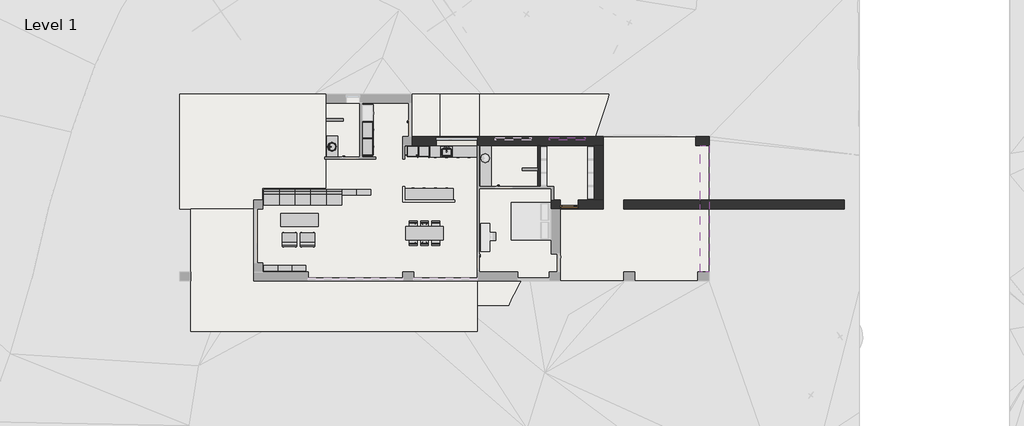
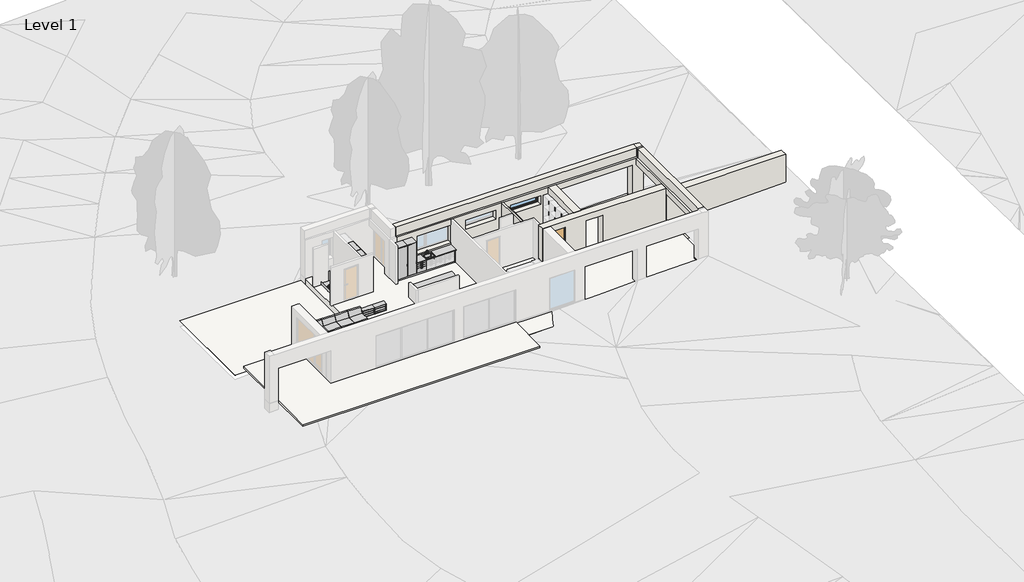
# One storey, part 2 of 3: 39 furniture elements, 12 walls, 4 slabs, 2 flow terminals, 1 door, 1 window.
"""IFC4 building model written with IfcOpenShell, lengths in millimetres."""

from ifc_helpers import new_model, si_unit, frame, origin, origin_with_axes, place, context, project, spatial, polyline, outline, extrude, faceted_brep, transform, mapped, element, save
from components import ext_single_flush1_960x2200_mm_7c25dc53, sink_kitchen_single_600_x_535mm_f0c6929d, sink_vanity_round_482_x_482mm_621b7b9b, furniture_c7f23c1d, furniture_56f83323, furniture_641ccf10, furniture_2000_x_700mm_040c55c5, furniture_2000_x_700mm_sofa_1e09125b, furniture_750_x_300_x_450mm_957a72fb, base_cabinet_4_drawers_600_mm_7743cde6, couch_straight_module_couch_straight_module_fcc397ea, counter_top_counter_top_fbe04672, counter_top_w_sink_counter_top_w_sink_1a22a961, front_plain_front_plain_37046411, front_plain_front_plain_e6c80844, front_plain_front_plain_2_fe2e9d0c, plinth_164mm_a440ec44, plinth_164mm_10810e33, tall_cabinet_double_door_900_mm_12ca9f50, tall_cabinet_single_door_600_mm_6a825e10, vanity_counter_top_w_round_sink_hole_600mm_depth_ba51d22c, vanity_counter_top_w_round_sink_hole_600mm_depth_d806985c, single_light_top_hinged_1920x600_dd11e4f9

model = new_model("IFC4")

# Units and contexts
model_context = context("Model", 3, world=origin())
ifc_project = project(units=[si_unit("LENGTHUNIT", "METRE", prefix="MILLI")], contexts=[model_context])

# Site, building, storey
site = spatial("IfcSite", under=ifc_project)
building = spatial("IfcBuilding", under=site)
storey = spatial("IfcBuildingStorey", under=building, Name="Level 1", Elevation=0.0)

# Door
placement = place(None, origin())
ext_single_flush1_960x2200_mm_shape = ext_single_flush1_960x2200_mm_7c25dc53(model_context)
element("IfcDoor", 1, ObjectType="Ext. Single-Flush1 : 960x2200 mm", at=placement, inside=storey, context=model_context, shape_type="MappedRepresentation", body=[
    mapped(ext_single_flush1_960x2200_mm_shape, transform((20760.0, 4080.0, 0.0), x_axis=(-1.0, 0.0, 0.0), y_axis=(0.0, -1.0, 0.0), z_axis=(0.0, 0.0, 1.0))),
])

# Flow terminals
sink_kitchen_single_600_x_535mm_shape = sink_kitchen_single_600_x_535mm_f0c6929d(model_context)
element("IfcFlowTerminal", 2, ObjectType="Sink Kitchen-Single : 600 x 535mm", at=placement, inside=storey, context=model_context, shape_type="MappedRepresentation", body=[
    mapped(sink_kitchen_single_600_x_535mm_shape, transform((14204.3107594, 6884.4545989, 0.0), x_axis=(1.0, 0.0, 0.0), y_axis=(0.0, 1.0, 0.0), z_axis=(0.0, 0.0, 1.0))),
])
sink_vanity_round_482_x_482mm_shape = sink_vanity_round_482_x_482mm_621b7b9b(model_context)
element("IfcFlowTerminal", 3, ObjectType="Sink Vanity - Round : 482 x 482mm", at=placement, inside=storey, context=model_context, shape_type="MappedRepresentation", body=[
    mapped(sink_vanity_round_482_x_482mm_shape, transform((8199.0351087, 7049.1198202, 0.0), x_axis=(0.0, 1.0000000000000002, 0.0), y_axis=(-1.0000000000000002, 0.0, 0.0), z_axis=(0.0, 0.0, 1.0))),
])

# Furniture
furniture_shape = furniture_c7f23c1d(model_context)
element("IfcFurniture", 4, ObjectType="Armchair - Barcelona : Armchair - Barcelona", at=placement, inside=storey, context=model_context, shape_type="MappedRepresentation", body=[
    mapped(furniture_shape, transform((5860.0, 1780.0, 0.0), x_axis=(-1.0000000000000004, 0.0, 0.0), y_axis=(0.0, -1.0000000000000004, 0.0), z_axis=(0.0, 0.0, 1.0))),
])
element("IfcFurniture", 5, ObjectType="Armchair - Barcelona : Armchair - Barcelona", at=placement, inside=storey, context=model_context, shape_type="MappedRepresentation", body=[
    mapped(furniture_shape, transform((6820.0, 1780.0, 0.0), x_axis=(-1.0, 0.0, 0.0), y_axis=(0.0, -1.0, 0.0), z_axis=(0.0, 0.0, 1.0))),
])
furniture_2_shape = furniture_56f83323(model_context)
element("IfcFurniture", 6, ObjectType="Chair - Allround : Chair - allround", at=placement, inside=storey, context=model_context, shape_type="MappedRepresentation", body=[
    mapped(furniture_2_shape, transform((13040.0, 2890.0, 0.0), x_axis=(1.0, 0.0, 0.0), y_axis=(0.0, 1.0, 0.0), z_axis=(0.0, 0.0, 1.0))),
])
element("IfcFurniture", 7, ObjectType="Chair - Allround : Chair - allround", at=placement, inside=storey, context=model_context, shape_type="MappedRepresentation", body=[
    mapped(furniture_2_shape, transform((12440.0, 2890.0, 0.0), x_axis=(1.0, 0.0, 0.0), y_axis=(0.0, 1.0, 0.0), z_axis=(0.0, 0.0, 1.0))),
])
element("IfcFurniture", 8, ObjectType="Chair - Allround : Chair - allround", at=placement, inside=storey, context=model_context, shape_type="MappedRepresentation", body=[
    mapped(furniture_2_shape, transform((13640.0, 2190.0, 0.0), x_axis=(-1.0, 0.0, 0.0), y_axis=(0.0, -1.0, 0.0), z_axis=(0.0, 0.0, 1.0))),
])
furniture_3_shape = furniture_641ccf10(model_context)
element("IfcFurniture", 9, ObjectType="Chair - Allround : Chair - allround", at=placement, inside=storey, context=model_context, shape_type="MappedRepresentation", body=[
    mapped(furniture_3_shape, transform((13640.0, 2890.0, 0.0), x_axis=(-1.0, 0.0, 0.0), y_axis=(0.0, -1.0, 0.0), z_axis=(0.0, 0.0, 1.0))),
])
element("IfcFurniture", 10, ObjectType="Chair - Allround : Chair - allround", at=placement, inside=storey, context=model_context, shape_type="MappedRepresentation", body=[
    mapped(furniture_3_shape, transform((13040.0, 2190.0, 0.0), x_axis=(1.0, 0.0, 0.0), y_axis=(0.0, 1.0, 0.0), z_axis=(0.0, 0.0, 1.0))),
])
element("IfcFurniture", 11, ObjectType="Chair - Allround : Chair - allround", at=placement, inside=storey, context=model_context, shape_type="MappedRepresentation", body=[
    mapped(furniture_3_shape, transform((12440.0, 2190.0, 0.0), x_axis=(1.0, 0.0, 0.0), y_axis=(0.0, 1.0, 0.0), z_axis=(0.0, 0.0, 1.0))),
])
furniture_2000_x_700mm_shape = furniture_2000_x_700mm_040c55c5(model_context)
element("IfcFurniture", 12, ObjectType="Table - Allround : 2000 x 700mm", at=placement, inside=storey, context=model_context, shape_type="MappedRepresentation", body=[
    mapped(furniture_2000_x_700mm_shape, transform((13040.0, 2540.0, 0.0), x_axis=(1.0, 0.0, 0.0), y_axis=(0.0, 1.0, 0.0), z_axis=(0.0, 0.0, 1.0))),
])
furniture_2000_x_700mm_sofa_shape = furniture_2000_x_700mm_sofa_1e09125b(model_context)
element("IfcFurniture", 13, ObjectType="Table - Allround : 2000 x 700mm Sofa", at=placement, inside=storey, context=model_context, shape_type="MappedRepresentation", body=[
    mapped(furniture_2000_x_700mm_sofa_shape, transform((6380.0, 3240.0, 0.0), x_axis=(1.0, 0.0, 0.0), y_axis=(0.0, 1.0, 0.0), z_axis=(0.0, 0.0, 1.0))),
])
furniture_750_x_300_x_450mm_shape = furniture_750_x_300_x_450mm_957a72fb(model_context)
element("IfcFurniture", 14, ObjectType="Shelving (Floor) - Allround : 750 x 300 x 450mm", at=placement, inside=storey, context=model_context, shape_type="MappedRepresentation", body=[
    mapped(furniture_750_x_300_x_450mm_shape, transform((9045.0, 5034.8, 0.0), x_axis=(1.0, 0.0, 0.0), y_axis=(0.0, 1.0, 0.0), z_axis=(0.0, 0.0, 1.0))),
])
element("IfcFurniture", 15, ObjectType="Shelving (Floor) - Allround : 750 x 300 x 450mm", at=placement, inside=storey, context=model_context, shape_type="MappedRepresentation", body=[
    mapped(furniture_750_x_300_x_450mm_shape, transform((9795.0, 5034.8, 0.0), x_axis=(1.0, 0.0, 0.0), y_axis=(0.0, 1.0, 0.0), z_axis=(0.0, 0.0, 1.0))),
])
element("IfcFurniture", 16, ObjectType="Shelving (Floor) - Allround : 750 x 300 x 450mm", at=placement, inside=storey, context=model_context, shape_type="MappedRepresentation", body=[
    mapped(furniture_750_x_300_x_450mm_shape, transform((4855.0, 974.8, 0.0), x_axis=(1.0, 0.0, 0.0), y_axis=(0.0, 1.0, 0.0), z_axis=(0.0, 0.0, 1.0))),
])
element("IfcFurniture", 17, ObjectType="Shelving (Floor) - Allround : 750 x 300 x 450mm", at=placement, inside=storey, context=model_context, shape_type="MappedRepresentation", body=[
    mapped(furniture_750_x_300_x_450mm_shape, transform((5605.0, 974.8, 0.0), x_axis=(1.0, 0.0, 0.0), y_axis=(0.0, 1.0, 0.0), z_axis=(0.0, 0.0, 1.0))),
])
element("IfcFurniture", 18, ObjectType="Shelving (Floor) - Allround : 750 x 300 x 450mm", at=placement, inside=storey, context=model_context, shape_type="MappedRepresentation", body=[
    mapped(furniture_750_x_300_x_450mm_shape, transform((6355.0, 974.8, 0.0), x_axis=(1.0, 0.0, 0.0), y_axis=(0.0, 1.0, 0.0), z_axis=(0.0, 0.0, 1.0))),
])
base_cabinet_4_drawers_600_mm_shape = base_cabinet_4_drawers_600_mm_7743cde6(model_context)
element("IfcFurniture", 19, ObjectType="Base Cabinet - 4 Drawers : 600 mm", at=placement, inside=storey, context=model_context, shape_type="MappedRepresentation", body=[
    mapped(base_cabinet_4_drawers_600_mm_shape, transform((13575.2996736, 7200.0, 0.0), x_axis=(1.0, 0.0, 0.0), y_axis=(0.0, 1.0, 0.0), z_axis=(0.0, 0.0, 1.0))),
])
element("IfcFurniture", 20, ObjectType="Base Cabinet - 4 Drawers : 600 mm", at=placement, inside=storey, context=model_context, shape_type="MappedRepresentation", body=[
    mapped(base_cabinet_4_drawers_600_mm_shape, transform((12464.7003264, 4320.0, 0.0), x_axis=(-1.0, 0.0, 0.0), y_axis=(0.0, -1.0, 0.0), z_axis=(0.0, 0.0, 1.0))),
])
element("IfcFurniture", 21, ObjectType="Base Cabinet - 4 Drawers : 600 mm", at=placement, inside=storey, context=model_context, shape_type="MappedRepresentation", body=[
    mapped(base_cabinet_4_drawers_600_mm_shape, transform((13064.7003264, 4320.0, 0.0), x_axis=(-1.0, 0.0, 0.0), y_axis=(0.0, -1.0, 0.0), z_axis=(0.0, 0.0, 1.0))),
])
element("IfcFurniture", 22, ObjectType="Base Cabinet - 4 Drawers : 600 mm", at=placement, inside=storey, context=model_context, shape_type="MappedRepresentation", body=[
    mapped(base_cabinet_4_drawers_600_mm_shape, transform((13664.7003264, 4320.0, 0.0), x_axis=(-1.0, 0.0, 0.0), y_axis=(0.0, -1.0, 0.0), z_axis=(0.0, 0.0, 1.0))),
])
element("IfcFurniture", 23, ObjectType="Base Cabinet - 4 Drawers : 600 mm", at=placement, inside=storey, context=model_context, shape_type="MappedRepresentation", body=[
    mapped(base_cabinet_4_drawers_600_mm_shape, transform((14264.7003264, 4320.0, 0.0), x_axis=(-1.0, 0.0, 0.0), y_axis=(0.0, -1.0, 0.0), z_axis=(0.0, 0.0, 1.0))),
])
couch_straight_module_couch_straight_module_shape = couch_straight_module_couch_straight_module_fcc397ea(model_context)
element("IfcFurniture", 24, ObjectType="Couch - Straight Module : Couch straight module", at=placement, inside=storey, context=model_context, shape_type="MappedRepresentation", body=[
    mapped(couch_straight_module_couch_straight_module_shape, transform((4480.0, 4050.0, 0.0), x_axis=(1.0, 0.0, 0.0), y_axis=(0.0, 1.0, 0.0), z_axis=(0.0, 0.0, 1.0))),
])
element("IfcFurniture", 25, ObjectType="Couch - Straight Module : Couch straight module", at=placement, inside=storey, context=model_context, shape_type="MappedRepresentation", body=[
    mapped(couch_straight_module_couch_straight_module_shape, transform((5310.0, 4050.0, 0.0), x_axis=(1.0, 0.0, 0.0), y_axis=(0.0, 1.0, 0.0), z_axis=(0.0, 0.0, 1.0))),
])
element("IfcFurniture", 26, ObjectType="Couch - Straight Module : Couch straight module", at=placement, inside=storey, context=model_context, shape_type="MappedRepresentation", body=[
    mapped(couch_straight_module_couch_straight_module_shape, transform((6140.0, 4050.0, 0.0), x_axis=(1.0, 0.0, 0.0), y_axis=(0.0, 1.0, 0.0), z_axis=(0.0, 0.0, 1.0))),
])
element("IfcFurniture", 27, ObjectType="Couch - Straight Module : Couch straight module", at=placement, inside=storey, context=model_context, shape_type="MappedRepresentation", body=[
    mapped(couch_straight_module_couch_straight_module_shape, transform((6970.0, 4050.0, 0.0), x_axis=(1.0, 0.0, 0.0), y_axis=(0.0, 1.0, 0.0), z_axis=(0.0, 0.0, 1.0))),
])
element("IfcFurniture", 28, ObjectType="Couch - Straight Module : Couch straight module", at=placement, inside=storey, context=model_context, shape_type="MappedRepresentation", body=[
    mapped(couch_straight_module_couch_straight_module_shape, transform((7800.0, 4050.0, 0.0), x_axis=(1.0, 0.0, 0.0), y_axis=(0.0, 1.0, 0.0), z_axis=(0.0, 0.0, 1.0))),
])
counter_top_counter_top_shape = counter_top_counter_top_fbe04672(model_context)
element("IfcFurniture", 29, ObjectType="Counter Top : Counter Top", at=placement, inside=storey, context=model_context, shape_type="MappedRepresentation", body=[
    mapped(counter_top_counter_top_shape, transform((12555.2996736, 4920.0, 0.0), x_axis=(1.0, 0.0, 0.0), y_axis=(0.0, 1.0, 0.0), z_axis=(0.0, 0.0, 1.0))),
])
counter_top_w_sink_counter_top_w_sink_shape = counter_top_w_sink_counter_top_w_sink_1a22a961(model_context)
element("IfcFurniture", 30, ObjectType="Counter Top w Sink : Counter Top w Sink", at=placement, inside=storey, context=model_context, shape_type="MappedRepresentation", body=[
    mapped(counter_top_w_sink_counter_top_w_sink_shape, transform((13875.2996736, 7200.0, 0.0), x_axis=(1.0, 0.0, 0.0), y_axis=(0.0, 1.0, 0.0), z_axis=(0.0, 0.0, 1.0))),
])
front_plain_front_plain_shape = front_plain_front_plain_37046411(model_context)
element("IfcFurniture", 31, ObjectType="Front - Plain : Front - Plain", at=placement, inside=storey, context=model_context, shape_type="MappedRepresentation", body=[
    mapped(front_plain_front_plain_shape, transform((15783.0, 6711.0, 161.0), x_axis=(1.0, 0.0, 0.0), y_axis=(0.0, 1.0, 0.0), z_axis=(0.0, 0.0, 1.0))),
])
element("IfcFurniture", 32, ObjectType="Front - Plain : Front - Plain", at=placement, inside=storey, context=model_context, shape_type="MappedRepresentation", body=[
    mapped(front_plain_front_plain_shape, transform((12057.0, 4809.0, 161.0), x_axis=(-1.0, 0.0, 0.0), y_axis=(0.0, -1.0, 0.0), z_axis=(0.0, 0.0, 1.0))),
])
front_plain_front_plain_2_shape = front_plain_front_plain_e6c80844(model_context)
element("IfcFurniture", 33, ObjectType="Front - Plain : Front - Plain", at=placement, inside=storey, context=model_context, shape_type="MappedRepresentation", body=[
    mapped(front_plain_front_plain_2_shape, transform((12657.0, 6711.0, 161.0), x_axis=(-1.0, 0.0, 0.0), y_axis=(0.0, -1.0, 0.0), z_axis=(0.0, 0.0, 1.0))),
])
front_plain_front_plain_2_2_shape = front_plain_front_plain_2_fe2e9d0c(model_context)
element("IfcFurniture", 34, ObjectType="Front - Plain : Front - Plain 2", at=placement, inside=storey, context=model_context, shape_type="MappedRepresentation", body=[
    mapped(front_plain_front_plain_2_2_shape, transform((12057.0, 6711.0, 161.0), x_axis=(-1.0, 0.0, 0.0), y_axis=(0.0, -1.0, 0.0), z_axis=(0.0, 0.0, 1.0))),
])
plinth_164mm_shape = plinth_164mm_a440ec44(model_context)
element("IfcFurniture", 35, ObjectType="Plinth : 164mm", at=placement, inside=storey, context=model_context, shape_type="MappedRepresentation", body=[
    mapped(plinth_164mm_shape, transform((13875.2996736, 7200.0, 0.0), x_axis=(1.0, 0.0, 0.0), y_axis=(0.0, 1.0, 0.0), z_axis=(0.0, 0.0, 1.0))),
])
plinth_164mm_2_shape = plinth_164mm_10810e33(model_context)
element("IfcFurniture", 36, ObjectType="Plinth : 164mm", at=placement, inside=storey, context=model_context, shape_type="MappedRepresentation", body=[
    mapped(plinth_164mm_2_shape, transform((13304.7003264, 4320.0, 0.0), x_axis=(-1.0000000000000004, 0.0, 0.0), y_axis=(0.0, -1.0000000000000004, 0.0), z_axis=(0.0, 0.0, 1.0))),
])
tall_cabinet_double_door_900_mm_shape = tall_cabinet_double_door_900_mm_12ca9f50(model_context)
element("IfcFurniture", 37, ObjectType="Tall Cabinet - Double door : 900 mm", at=placement, inside=storey, context=model_context, shape_type="MappedRepresentation", body=[
    mapped(tall_cabinet_double_door_900_mm_shape, transform((9720.0, 7995.2996736, 0.0), x_axis=(0.0, 1.0000000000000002, 0.0), y_axis=(-1.0000000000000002, 0.0, 0.0), z_axis=(0.0, 0.0, 1.0))),
])
element("IfcFurniture", 38, ObjectType="Tall Cabinet - Double door : 900 mm", at=placement, inside=storey, context=model_context, shape_type="MappedRepresentation", body=[
    mapped(tall_cabinet_double_door_900_mm_shape, transform((9720.0, 7095.2996736, 0.0), x_axis=(0.0, 1.0000000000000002, 0.0), y_axis=(-1.0000000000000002, 0.0, 0.0), z_axis=(0.0, 0.0, 1.0))),
])
tall_cabinet_single_door_600_mm_shape = tall_cabinet_single_door_600_mm_6a825e10(model_context)
element("IfcFurniture", 39, ObjectType="Tall Cabinet - Single door : 600 mm", at=placement, inside=storey, context=model_context, shape_type="MappedRepresentation", body=[
    mapped(tall_cabinet_single_door_600_mm_shape, transform((12375.2996736, 7200.0, 0.0), x_axis=(1.0, 0.0, 0.0), y_axis=(0.0, 1.0, 0.0), z_axis=(0.0, 0.0, 1.0))),
])
element("IfcFurniture", 40, ObjectType="Tall Cabinet - Single door : 600 mm", at=placement, inside=storey, context=model_context, shape_type="MappedRepresentation", body=[
    mapped(tall_cabinet_single_door_600_mm_shape, transform((12975.2996736, 7200.0, 0.0), x_axis=(1.0, 0.0, 0.0), y_axis=(0.0, 1.0, 0.0), z_axis=(0.0, 0.0, 1.0))),
])
vanity_counter_top_w_round_sink_hole_600mm_depth_shape = vanity_counter_top_w_round_sink_hole_600mm_depth_ba51d22c(model_context)
element("IfcFurniture", 41, ObjectType="Vanity Counter Top w. Round Sink Hole : 600mm Depth", at=placement, inside=storey, context=model_context, shape_type="MappedRepresentation", body=[
    mapped(vanity_counter_top_w_round_sink_hole_600mm_depth_shape, transform((15960.0, 6367.4622951, 0.0), x_axis=(0.0, 1.0000000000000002, 0.0), y_axis=(-1.0000000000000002, 0.0, 0.0), z_axis=(0.0, 0.0, 1.0))),
])
vanity_counter_top_w_round_sink_hole_600mm_depth_2_shape = vanity_counter_top_w_round_sink_hole_600mm_depth_d806985c(model_context)
element("IfcFurniture", 42, ObjectType="Vanity Counter Top w. Round Sink Hole : 600mm Depth", at=placement, inside=storey, context=model_context, shape_type="MappedRepresentation", body=[
    mapped(vanity_counter_top_w_round_sink_hole_600mm_depth_2_shape, transform((7800.0, 7927.4622951, 0.0), x_axis=(0.0, 1.0000000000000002, 0.0), y_axis=(-1.0000000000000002, 0.0, 0.0), z_axis=(0.0, 0.0, 1.0))),
])

# Slabs
element("IfcSlab", 43, ObjectType="Generic - 400mm (Ground)", at=placement, inside=storey, context=model_context, shape_type="Brep", body=[
    faceted_brep([(12195.0, 9480.0, -400.0), (12195.0, 7680.0, -400.0), (11880.0, 7680.0, -400.0), (11880.0, 7200.0, -400.0), (22080.0, 7200.0, -400.0), (22080.0, 4320.0, -400.0), (21240.0, 4320.0, -400.0), (21240.0, 4005.0, -400.0), (20280.0, 4005.0, -400.0), (20280.0, 4320.0, -400.0), (19800.0, 4320.0, -400.0), (19800.0, 1440.0, -400.0), (20115.0, 1440.0, -400.0), (20115.0, 480.0, -400.0), (19800.0, 480.0, -400.0), (19680.0, 480.0, -400.0), (19680.0, 165.0, -400.0), (18000.0, 165.0, -400.0), (18000.0, 480.0, -400.0), (15840.0, 480.0, -400.0), (15840.0, 165.0, -400.0), (12480.0, 165.0, -400.0), (12480.0, 480.0, -400.0), (11880.0, 480.0, -400.0), (11880.0, 165.0, -400.0), (6840.0, 165.0, -400.0), (6840.0, 480.0, -400.0), (4440.0, 480.0, -400.0), (4440.0, 960.0, -400.0), (4125.0, 960.0, -400.0), (4125.0, 3840.0, -400.0), (4440.0, 3840.0, -400.0), (4440.0, 4920.0, -400.0), (7800.0, 4920.0, -400.0), (7800.0, 9480.0, -400.0), (11880.0, 9480.0, -400.0), (12195.0, 9480.0, 0.0), (7800.0, 9480.0, 0.0), (7800.0, 4920.0, 0.0), (4440.0, 4920.0, 0.0), (4440.0, 3840.0, 0.0), (4125.0, 3840.0, 0.0), (4125.0, 960.0, 0.0), (4440.0, 960.0, 0.0), (4440.0, 480.0, 0.0), (6840.0, 480.0, 0.0), (6840.0, 165.0, 0.0), (11880.0, 165.0, 0.0), (11880.0, 480.0, 0.0), (12480.0, 480.0, 0.0), (12480.0, 165.0, 0.0), (15840.0, 165.0, 0.0), (15840.0, 480.0, 0.0), (18000.0, 480.0, 0.0), (18000.0, 165.0, 0.0), (19680.0, 165.0, 0.0), (19680.0, 480.0, 0.0), (19800.0, 480.0, 0.0), (20115.0, 480.0, 0.0), (20115.0, 1440.0, 0.0), (19800.0, 1440.0, 0.0), (19800.0, 3840.0, 0.0), (19800.0, 4320.0, 0.0), (20280.0, 4320.0, 0.0), (20280.0, 4005.0, 0.0), (21240.0, 4005.0, 0.0), (21240.0, 4320.0, 0.0), (22080.0, 4320.0, 0.0), (22080.0, 7200.0, 0.0), (12360.0, 7200.0, 0.0), (11880.0, 7200.0, 0.0), (11880.0, 7680.0, 0.0), (12195.0, 7680.0, 0.0)], [[[0, 1, 2, 3, 4, 5, 6, 7, 8, 9, 10, 11, 12, 13, 14, 15, 16, 17, 18, 19, 20, 21, 22, 23, 24, 25, 26, 27, 28, 29, 30, 31, 32, 33, 34, 35]], [[36, 37, 38, 39, 40, 41, 42, 43, 44, 45, 46, 47, 48, 49, 50, 51, 52, 53, 54, 55, 56, 57, 58, 59, 60, 61, 62, 63, 64, 65, 66, 67, 68, 69, 70, 71, 72]], [[1, 0, 36, 72]], [[2, 1, 72, 71]], [[3, 2, 71, 70]], [[4, 3, 70, 69, 68]], [[5, 4, 68, 67]], [[6, 5, 67, 66]], [[7, 6, 66, 65]], [[8, 7, 65, 64]], [[9, 8, 64, 63]], [[10, 9, 63, 62]], [[11, 10, 62, 61, 60]], [[12, 11, 60, 59]], [[13, 12, 59, 58]], [[15, 14, 13, 58, 57, 56]], [[16, 15, 56, 55]], [[17, 16, 55, 54]], [[18, 17, 54, 53]], [[19, 18, 53, 52]], [[20, 19, 52, 51]], [[21, 20, 51, 50]], [[22, 21, 50, 49]], [[23, 22, 49, 48]], [[24, 23, 48, 47]], [[25, 24, 47, 46]], [[26, 25, 46, 45]], [[27, 26, 45, 44]], [[28, 27, 44, 43]], [[29, 28, 43, 42]], [[30, 29, 42, 41]], [[31, 30, 41, 40]], [[32, 31, 40, 39]], [[33, 32, 39, 38]], [[34, 33, 38, 37]], [[0, 35, 34, 37, 36]]]),
])
element("IfcSlab", 44, ObjectType="Generic - Concrete 100mm (Exterior)", at=placement, inside=storey, context=model_context, shape_type="Brep", body=[
    faceted_brep([(28200.0, 9960.0, -200.0), (28200.0, 7680.0, -200.0), (28200.0, 7200.0, -200.0), (28200.0, 4320.0, -200.0), (23640.0, 4320.0, -200.0), (23640.0, 3840.0, -200.0), (28200.0, 3840.0, -200.0), (28200.0, 480.0, -200.0), (28200.0, 0.0, -200.0), (28200.0, -1300.0, -200.0), (15840.0, -1300.0, -200.0), (15840.0, 0.0, -200.0), (20280.0, 0.0, -200.0), (20280.0, 3840.0, -200.0), (22560.0, 3840.0, -200.0), (22560.0, 7680.0, -200.0), (12360.0, 7680.0, -200.0), (12360.0, 9960.0, -200.0), (28200.0, 9960.0, -100.0), (28200.0, 7680.0, -100.0), (28200.0, 7200.0, -100.0), (28200.0, 4320.0, -100.0), (23640.0, 4320.0, -100.0), (23640.0, 3840.0, -100.0), (28200.0, 3840.0, -100.0), (28200.0, 480.0, -100.0), (28200.0, 0.0, -100.0), (28200.0, -1300.0, -100.0), (15840.0, -1300.0, -100.0), (15840.0, 0.0, -100.0), (20280.0, 0.0, -100.0), (20280.0, 3840.0, -100.0), (22560.0, 3840.0, -100.0), (22560.0, 7680.0, -100.0), (15960.0, 7680.0, -100.0), (13860.0, 7680.0, 0.0), (12360.0, 7680.0, 0.0), (12360.0, 9960.0, 0.0), (13860.0, 9960.0, 0.0), (15960.0, 9960.0, -100.0)], [[[0, 1, 2, 3, 4, 5, 6, 7, 8, 9, 10, 11, 12, 13, 14, 15, 16, 17]], [[3, 2, 1, 0, 18, 19, 20, 21]], [[4, 3, 21, 22]], [[5, 4, 22, 23]], [[6, 5, 23, 24]], [[8, 7, 6, 24, 25, 26]], [[9, 8, 26, 27]], [[10, 9, 27, 28]], [[11, 10, 28, 29]], [[12, 11, 29, 30]], [[13, 12, 30, 31]], [[14, 13, 31, 32]], [[15, 14, 32, 33]], [[16, 15, 33, 34, 35, 36]], [[17, 16, 36, 37]], [[0, 17, 37, 38, 39, 18]], [[37, 36, 35, 38]], [[38, 35, 34, 39]], [[33, 32, 31, 30, 29, 28, 27, 26, 25, 24, 23, 22, 21, 20, 19, 18, 39, 34]]]),
])
element("IfcSlab", 45, ObjectType="Generic - Wood 120mm (Exterior)", at=placement, inside=storey, context=model_context, shape_type="SweptSolid", body=[
    extrude(outline(polyline([(3960.0, 3840.0), (3960.0, 0.0), (15840.0, 0.0), (15840.0, -2700.0), (600.0, -2700.0), (600.0, 3840.0), (3960.0, 3840.0)])), frame((0.0, 0.0, -120.0), z_axis=(0.0, 0.0, 1.0), x_axis=(1.0, 0.0, 0.0)), (0.0, 0.0, 1.0), 120.0),
])
element("IfcSlab", 46, ObjectType="Generic Pad - 2mm", at=placement, inside=storey, context=model_context, shape_type="SweptSolid", body=[
    extrude(outline(polyline([(12360.0, 9960.0), (12360.0, 7680.0), (28200.0, 7680.0), (28200.0, 4320.0), (35400.0, 4320.0), (35400.0, 3840.0), (28200.0, 3840.0), (28200.0, 0.0), (3960.0, 0.0), (3960.0, 3840.0), (0.0, 3840.0), (0.0, 9960.0), (12360.0, 9960.0)])), frame((0.0, 0.0, -400.0), z_axis=(0.0, 0.0, 1.0), x_axis=(1.0, 0.0, 0.0)), (0.0, 0.0, 1.0), 2.0),
])

# Walls
element("IfcWall", 47, ObjectType="Generic - 120mm (Interior)", at=placement, inside=storey, context=model_context, shape_type="Brep", body=[
    faceted_brep([(19200.0, 5040.0, 0.0), (19200.0, 7200.0, 0.0), (19200.0, 7200.0, 2600.0), (19200.0, 5040.0, 2600.0), (19080.0, 5040.0, 0.0), (19080.0, 5040.0, 2600.0), (19080.0, 5880.0, 2600.0), (19080.0, 6000.0, 2600.0), (19080.0, 7200.0, 2600.0), (19080.0, 7200.0, 0.0), (19080.0, 6000.0, 0.0), (19080.0, 5880.0, 0.0)], [[[0, 1, 2, 3]], [[4, 5, 6, 7, 8, 9, 10, 11]], [[1, 0, 4, 11, 10, 9]], [[0, 3, 5, 4]], [[2, 1, 9, 8]], [[3, 2, 8, 7, 6, 5]]]),
])
element("IfcWall", 48, ObjectType="Generic - 480mm (Exterior)", at=placement, inside=storey, context=model_context, shape_type="Brep", body=[
    faceted_brep([(12360.0, 7200.0, 0.0), (15840.0, 7200.0, 0.0), (15960.0, 7200.0, 0.0), (19080.0, 7200.0, 0.0), (19200.0, 7200.0, 0.0), (22080.0, 7200.0, 0.0), (22560.0, 7200.0, 0.0), (22560.0, 7200.0, 2200.0), (27480.0, 7200.0, 2200.0), (27480.0, 7200.0, 0.0), (28200.0, 7200.0, 0.0), (28200.0, 7200.0, 2200.0), (28200.0, 7200.0, 3200.0), (27840.0, 7200.0, 3200.0), (27840.0, 7200.0, 2600.0), (27720.0, 7200.0, 2600.0), (22560.0, 7200.0, 2600.0), (22080.0, 7200.0, 2600.0), (19200.0, 7200.0, 2600.0), (19080.0, 7200.0, 2600.0), (15960.0, 7200.0, 2600.0), (15840.0, 7200.0, 2600.0), (12360.0, 7200.0, 2600.0), (19680.0, 7200.0, 1600.0), (19680.0, 7200.0, 2200.0), (21600.0, 7200.0, 2200.0), (21600.0, 7200.0, 1600.0), (16800.0, 7200.0, 1600.0), (16800.0, 7200.0, 2200.0), (18720.0, 7200.0, 2200.0), (18720.0, 7200.0, 1600.0), (15840.0, 7200.0, 1000.0), (13680.0, 7200.0, 1000.0), (13680.0, 7200.0, 2200.0), (15840.0, 7200.0, 2200.0), (12360.0, 7680.0, 0.0), (12360.0, 7680.0, 2200.0), (12360.0, 7680.0, 3200.0), (27840.0, 7680.0, 3200.0), (28200.0, 7680.0, 3200.0), (28200.0, 7680.0, 0.0), (27480.0, 7680.0, 0.0), (27480.0, 7680.0, 2200.0), (22560.0, 7680.0, 2200.0), (22560.0, 7680.0, 0.0), (19680.0, 7680.0, 1600.0), (21600.0, 7680.0, 1600.0), (21600.0, 7680.0, 2200.0), (19680.0, 7680.0, 2200.0), (16800.0, 7680.0, 1600.0), (18720.0, 7680.0, 1600.0), (18720.0, 7680.0, 2200.0), (16800.0, 7680.0, 2200.0), (15840.0, 7680.0, 1000.0), (15840.0, 7680.0, 2200.0), (13680.0, 7680.0, 2200.0), (13680.0, 7680.0, 1000.0), (28200.0, 7320.0, 3200.0), (12360.0, 7320.0, 2600.0), (12360.0, 7320.0, 3200.0), (27840.0, 7320.0, 3200.0), (27840.0, 7320.0, 2600.0)], [[[0, 1, 2, 3, 4, 5, 6, 7, 8, 9, 10, 11, 12, 13, 14, 15, 16, 17, 18, 19, 20, 21, 22], [23, 24, 25, 26], [27, 28, 29, 30], [31, 32, 33, 34]], [[35, 36, 37, 38, 39, 40, 41, 42, 43, 44], [45, 46, 47, 48], [49, 50, 51, 52], [53, 54, 55, 56]], [[12, 11, 10, 40, 39, 57]], [[24, 23, 45, 48]], [[25, 24, 48, 47]], [[26, 25, 47, 46]], [[23, 26, 46, 45]], [[28, 27, 49, 52]], [[29, 28, 52, 51]], [[30, 29, 51, 50]], [[27, 30, 50, 49]], [[54, 53, 31, 34]], [[55, 54, 34, 33]], [[56, 55, 33, 32]], [[53, 56, 32, 31]], [[6, 5, 4, 3, 2, 1, 0, 35, 44]], [[8, 7, 43, 42]], [[9, 8, 42, 41]], [[10, 9, 41, 40]], [[7, 6, 44, 43]], [[0, 22, 58, 59, 37, 36, 35]], [[60, 59, 58, 61]], [[13, 12, 57, 60]], [[13, 60, 61, 14]], [[38, 37, 59, 60]], [[57, 39, 38, 60]], [[22, 21, 20, 19, 18, 17, 16, 15, 14, 61, 58]]]),
])
element("IfcWall", 49, ObjectType="Generic - 480mm (Exterior)", at=placement, inside=storey, context=model_context, shape_type="Brep", body=[
    faceted_brep([(27720.0, 7200.0, 2200.0), (27720.0, 480.0, 2200.0), (27720.0, 480.0, 2600.0), (27720.0, 3840.0, 2600.0), (27720.0, 4320.0, 2600.0), (27720.0, 7200.0, 2600.0), (28200.0, 7200.0, 2200.0), (28200.0, 7200.0, 3200.0), (28200.0, 480.0, 3200.0), (28200.0, 480.0, 2200.0), (27840.0, 7200.0, 2600.0), (27840.0, 7200.0, 3200.0), (27840.0, 480.0, 3200.0), (27840.0, 480.0, 2600.0)], [[[0, 1, 2, 3, 4, 5]], [[6, 7, 8, 9]], [[1, 0, 6, 9]], [[0, 5, 10, 11, 7, 6]], [[2, 1, 9, 8, 12, 13]], [[12, 8, 7, 11]], [[12, 11, 10, 13]], [[5, 4, 3, 2, 13, 10]]]),
])
element("IfcWall", 50, ObjectType="Generic - 480mm (Exterior)", at=placement, inside=storey, context=model_context, shape_type="Brep", body=[
    faceted_brep([(22080.0, 7200.0, 2600.0), (22080.0, 7200.0, 0.0), (22080.0, 4320.0, 0.0), (22080.0, 4320.0, 2600.0), (22560.0, 7200.0, 0.0), (22560.0, 7200.0, 2200.0), (22560.0, 7200.0, 2600.0), (22560.0, 4320.0, 2600.0), (22560.0, 4320.0, 2200.0), (22560.0, 4320.0, 0.0)], [[[0, 1, 2, 3]], [[4, 5, 6, 7, 8, 9]], [[2, 1, 4, 9]], [[0, 6, 5, 4, 1]], [[0, 3, 7, 6]], [[3, 2, 9, 8, 7]]]),
])
element("IfcWall", 51, ObjectType="Generic - 480mm (Exterior)", at=placement, inside=storey, context=model_context, shape_type="SweptSolid", body=[
    extrude(outline(polyline([(27720.0, 4320.0), (35400.0, 4320.0), (35400.0, 3840.0), (27720.0, 3840.0), (27720.0, 4320.0)])), origin_with_axes(), (0.0, 0.0, 1.0), 2200.0),
])
element("IfcWall", 52, ObjectType="Generic - 480mm (Exterior)", at=placement, inside=storey, context=model_context, shape_type="Brep", body=[
    faceted_brep([(19800.0, 4320.0, 0.0), (19800.0, 4320.0, 2600.0), (19920.0, 4320.0, 2600.0), (22080.0, 4320.0, 2600.0), (22560.0, 4320.0, 2600.0), (27720.0, 4320.0, 2600.0), (27720.0, 4320.0, 2200.0), (27720.0, 4320.0, 0.0), (23640.0, 4320.0, 0.0), (23640.0, 4320.0, 2200.0), (22560.0, 4320.0, 2200.0), (22560.0, 4320.0, 0.0), (22080.0, 4320.0, 0.0), (21240.0, 4320.0, 0.0), (21240.0, 4320.0, 2200.0), (20280.0, 4320.0, 2200.0), (20280.0, 4320.0, 0.0), (19920.0, 4320.0, 0.0), (19800.0, 3840.0, 2600.0), (19800.0, 3840.0, 0.0), (20280.0, 3840.0, 0.0), (20280.0, 3840.0, 2200.0), (21240.0, 3840.0, 2200.0), (21240.0, 3840.0, 0.0), (22560.0, 3840.0, 0.0), (22560.0, 3840.0, 2200.0), (23640.0, 3840.0, 2200.0), (23640.0, 3840.0, 0.0), (27720.0, 3840.0, 0.0), (27720.0, 3840.0, 2200.0), (27720.0, 3840.0, 2600.0), (20280.0, 3840.0, 2600.0)], [[[0, 1, 2, 3, 4, 5, 6, 7, 8, 9, 10, 11, 12, 13, 14, 15, 16, 17]], [[18, 19, 20, 21, 22, 23, 24, 25, 26, 27, 28, 29, 30, 31]], [[19, 0, 17, 16, 20]], [[7, 28, 27, 8]], [[11, 24, 23, 13, 12]], [[1, 0, 19, 18]], [[15, 21, 20, 16]], [[21, 15, 14, 22]], [[22, 14, 13, 23]], [[28, 7, 6, 5, 30, 29]], [[9, 26, 25, 10]], [[26, 9, 8, 27]], [[5, 4, 3, 2, 1, 18, 31, 30]], [[10, 25, 24, 11]]]),
])
element("IfcWall", 53, ObjectType="Generic - 480mm (Foundation)", at=placement, inside=storey, context=model_context, shape_type="Brep", body=[
    faceted_brep([(12360.0, 7200.0, -1300.0), (22080.0, 7200.0, -1300.0), (22560.0, 7200.0, -1300.0), (22560.0, 7200.0, 0.0), (22080.0, 7200.0, 0.0), (12360.0, 7200.0, 0.0), (12360.0, 7680.0, -1300.0), (12360.0, 7680.0, 0.0), (22560.0, 7680.0, 0.0), (22560.0, 7680.0, -1300.0)], [[[0, 1, 2, 3, 4, 5]], [[6, 7, 8, 9]], [[2, 1, 0, 6, 9]], [[5, 4, 3, 8, 7]], [[0, 5, 7, 6]], [[3, 2, 9, 8]]]),
])
element("IfcWall", 54, ObjectType="Generic - 480mm (Foundation)", at=placement, inside=storey, context=model_context, shape_type="Brep", body=[
    faceted_brep([(22080.0, 7200.0, -1300.0), (22080.0, 4320.0, -1300.0), (22080.0, 3840.0, -1300.0), (22080.0, 3840.0, 0.0), (22080.0, 4320.0, 0.0), (22080.0, 7200.0, 0.0), (22560.0, 7200.0, -1300.0), (22560.0, 7200.0, 0.0), (22560.0, 3840.0, 0.0), (22560.0, 3840.0, -1300.0)], [[[0, 1, 2, 3, 4, 5]], [[6, 7, 8, 9]], [[2, 1, 0, 6, 9]], [[5, 4, 3, 8, 7]], [[0, 5, 7, 6]], [[3, 2, 9, 8]]]),
])
element("IfcWall", 55, ObjectType="Generic - 480mm (Foundation)", at=placement, inside=storey, context=model_context, shape_type="Brep", body=[
    faceted_brep([(22080.0, 4320.0, -1300.0), (19800.0, 4320.0, -1300.0), (19800.0, 4320.0, -400.0), (19800.0, 4320.0, 0.0), (20280.0, 4320.0, 0.0), (20280.0, 4320.0, -400.0), (21240.0, 4320.0, -400.0), (21240.0, 4320.0, 0.0), (22080.0, 4320.0, 0.0), (22080.0, 4320.0, -400.0), (19800.0, 3840.0, -1300.0), (20280.0, 3840.0, -1300.0), (22080.0, 3840.0, -1300.0), (22080.0, 3840.0, 0.0), (20280.0, 3840.0, 0.0), (19800.0, 3840.0, 0.0), (19800.0, 3840.0, -400.0), (21240.0, 4005.0, 0.0), (20280.0, 4005.0, 0.0), (21240.0, 4005.0, -400.0), (20280.0, 4005.0, -400.0)], [[[0, 1, 2, 3, 4, 5, 6, 7, 8, 9]], [[10, 11, 12, 13, 14, 15, 16]], [[1, 0, 12, 11, 10]], [[15, 14, 13, 8, 7, 17, 18, 4, 3]], [[8, 13, 12, 0, 9]], [[1, 10, 16, 15, 3, 2]], [[19, 6, 5, 20]], [[6, 19, 17, 7]], [[19, 20, 18, 17]], [[20, 5, 4, 18]]]),
])
element("IfcWall", 56, ObjectType="Generic - 480mm (Foundation)", at=placement, inside=storey, context=model_context, shape_type="SweptSolid", body=[
    extrude(outline(polyline([(27600.0, 480.0), (28200.0, 480.0), (28200.0, 0.0), (27600.0, 0.0), (27600.0, 480.0)])), frame((0.0, 0.0, -1300.0), z_axis=(0.0, 0.0, 1.0), x_axis=(1.0, 0.0, 0.0)), (0.0, 0.0, 1.0), 1100.0),
    extrude(outline(polyline([(27600.0, 480.0), (28200.0, 480.0), (28200.0, 0.0), (27600.0, 0.0), (27600.0, 480.0)])), frame((0.0, 0.0, -100.0), z_axis=(0.0, 0.0, 1.0), x_axis=(1.0, 0.0, 0.0)), (0.0, 0.0, 1.0), 100.0),
])
element("IfcWall", 57, ObjectType="Generic - 480mm (Foundation)", at=placement, inside=storey, context=model_context, shape_type="SweptSolid", body=[
    extrude(outline(polyline([(23640.0, 4320.0), (35400.0, 4320.0), (35400.0, 3840.0), (23640.0, 3840.0), (23640.0, 4320.0)])), frame((0.0, 0.0, -1300.0), z_axis=(0.0, 0.0, 1.0), x_axis=(1.0, 0.0, 0.0)), (0.0, 0.0, 1.0), 1300.0),
])
element("IfcWall", 58, ObjectType="Generic - 480mm (Foundation)", at=placement, inside=storey, context=model_context, shape_type="SweptSolid", body=[
    extrude(outline(polyline([(28200.0, 7200.0), (27480.0, 7200.0), (27480.0, 7680.0), (28200.0, 7680.0), (28200.0, 7200.0)])), frame((0.0, 0.0, -1300.0), z_axis=(0.0, 0.0, 1.0), x_axis=(1.0, 0.0, 0.0)), (0.0, 0.0, 1.0), 1100.0),
    extrude(outline(polyline([(28200.0, 7200.0), (27480.0, 7200.0), (27480.0, 7680.0), (28200.0, 7680.0), (28200.0, 7200.0)])), frame((0.0, 0.0, -100.0), z_axis=(0.0, 0.0, 1.0), x_axis=(1.0, 0.0, 0.0)), (0.0, 0.0, 1.0), 100.0),
])

# Window
single_light_top_hinged_1920x600_shape = single_light_top_hinged_1920x600_dd11e4f9(model_context)
element("IfcWindow", 59, ObjectType="Single-Light (Top Hinged) : 1920x600", at=placement, inside=storey, context=model_context, shape_type="MappedRepresentation", body=[
    mapped(single_light_top_hinged_1920x600_shape, transform((20640.0, 7440.0, 800.0), x_axis=(1.0, 0.0, 0.0), y_axis=(0.0, 1.0, 0.0), z_axis=(0.0, 0.0, 1.0))),
])

save(model, "model.ifc")
